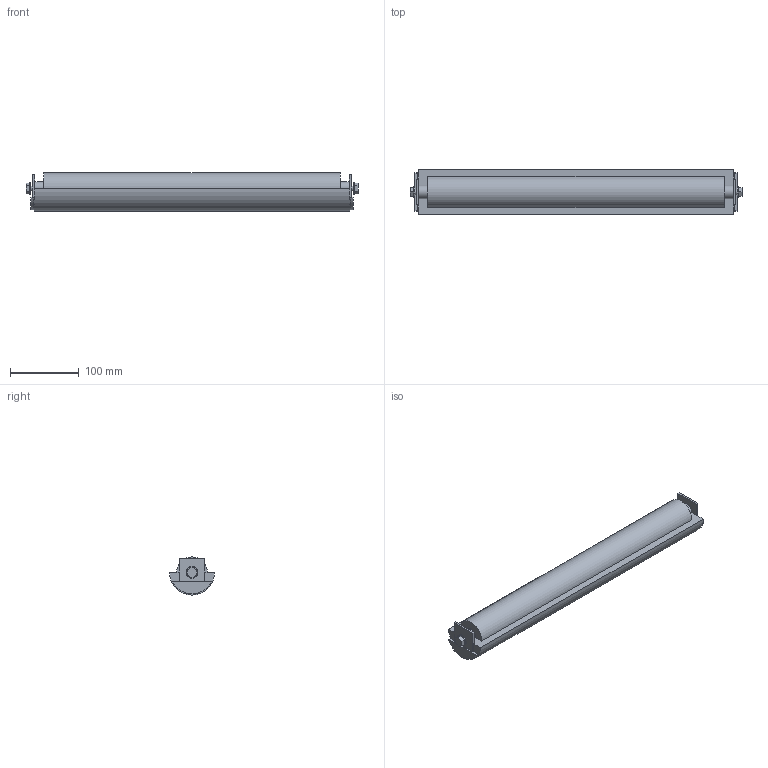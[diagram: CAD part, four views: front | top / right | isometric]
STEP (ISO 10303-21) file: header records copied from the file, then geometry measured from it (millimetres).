
FILE_DESCRIPTION (( 'STEP AP214' ), '1' );
FILE_NAME ('03.102I01.470.N FS-470-MTS2-100.INOX Idler section.STEP', '2025-02-11T11:27:11', ( '' ), ( '' ), 'SwSTEP 2.0', 'SolidWorks 2024', '' );
FILE_SCHEMA (( 'AUTOMOTIVE_DESIGN' ));
Length unit declared in the file: millimetre
Products named in the file (1): 03.102I01.470.N FS-470-MTS2-100.INOX Idler section
Bounding box: 481.8 x 65.4 x 55.2 mm (x, y, z)
Volume: 1131825.9 mm3; surface area: 100625.8 mm2
Topology: 1 solids, 1 shells, 64 faces, 164 edges, 108 vertices
Faces by surface type: plane 40, cylinder 24
Entity records: 1967 total; most frequent: DIRECTION 342, CARTESIAN_POINT 337, ORIENTED_EDGE 328, EDGE_CURVE 164, VECTOR 116, LINE 116, AXIS2_PLACEMENT_3D 113, VERTEX_POINT 108
